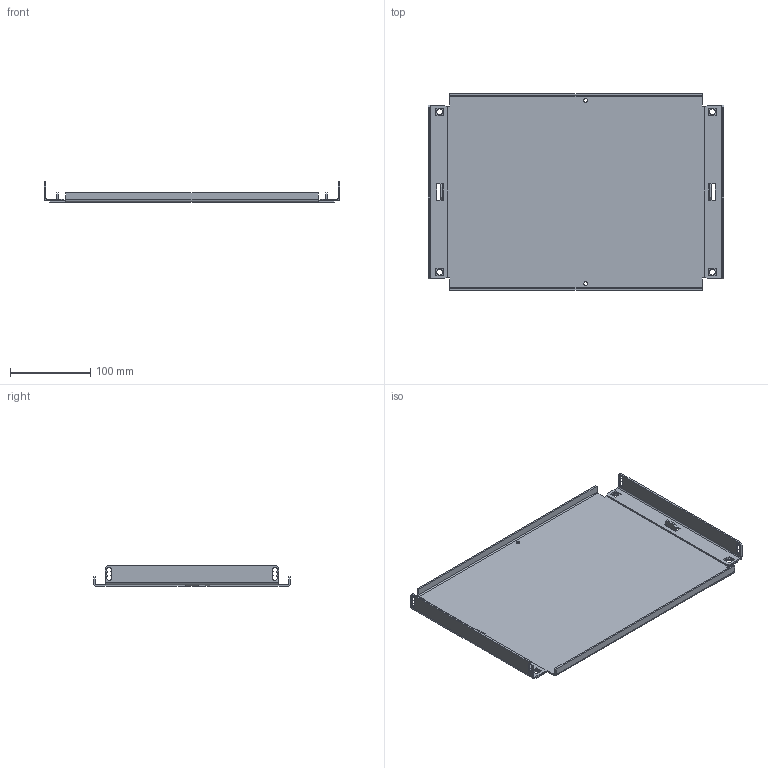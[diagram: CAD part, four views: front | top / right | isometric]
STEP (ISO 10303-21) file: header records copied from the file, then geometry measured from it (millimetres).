
FILE_DESCRIPTION(('STEP AP203'), '1');
FILE_NAME('Ïàíåëü ìîíòàæíàÿ ãëóõàÿ Â250õØ400 ìì OptiBox M 419103 ÊÝÀÇ', '', ('UNSPECIFIED'), ('UNSPECIFIED'), 'C3D Converter', 'C3D Toolkit', '');
FILE_SCHEMA(('CONFIG_CONTROL_DESIGN'));
Length unit declared in the file: millimetre
Bounding box: 369.2 x 245 x 26 mm (x, y, z)
Volume: 218363.2 mm3; surface area: 224194.8 mm2
Topology: 3 solids, 3 shells, 152 faces, 398 edges, 252 vertices
Faces by surface type: plane 118, cylinder 34
Full cylindrical faces by diameter (mm): 4.6 x2, 7.3 x4
Entity records: 5892 total; most frequent: CARTESIAN_POINT 797, ORIENTED_EDGE 784, DIRECTION 766, EDGE_CURVE 392, LINE 324, VECTOR 324, VERTEX_POINT 252, AXIS2_PLACEMENT_3D 221
